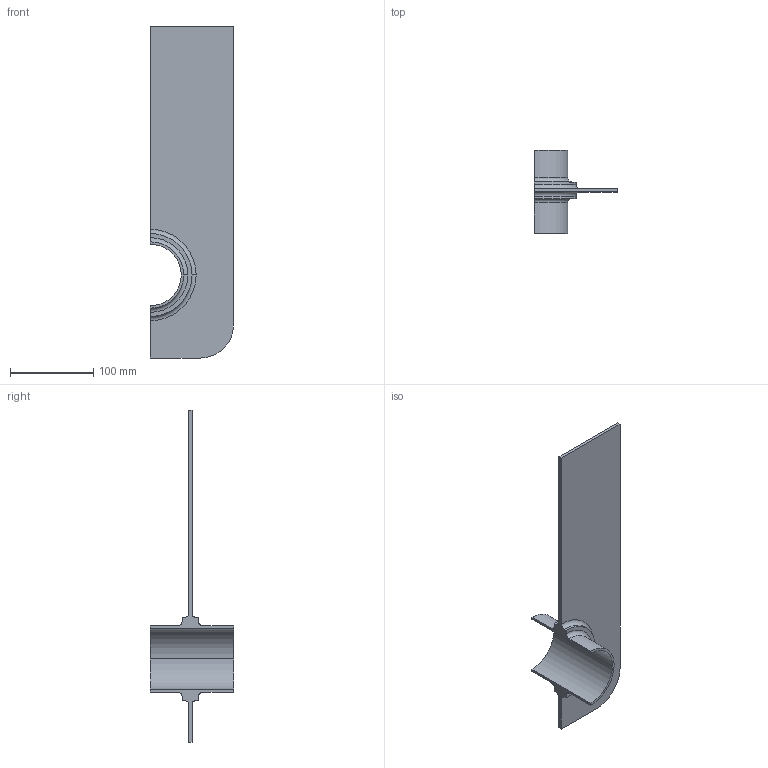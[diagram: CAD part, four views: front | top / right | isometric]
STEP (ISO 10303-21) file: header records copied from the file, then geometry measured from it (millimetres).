
FILE_SCHEMA(('AUTOMOTIVE_DESIGN { 1 0 10303 214 1 1 1 1 }'));
Length unit declared in the file: millimetre
Products named in the file (1): Common
Bounding box: 100 x 100 x 400 mm (x, y, z)
Volume: 210587.5 mm3; surface area: 102585.6 mm2
Topology: 1 solids, 1 shells, 30 faces, 80 edges, 52 vertices
Faces by surface type: cylinder 11, plane 11, torus 8
Entity records: 2172 total; most frequent: CARTESIAN_POINT 403, DIRECTION 284, ORIENTED_EDGE 160, PCURVE 160, DEFINITIONAL_REPRESENTATION 160, LINE 112, VECTOR 112, EDGE_CURVE 80
